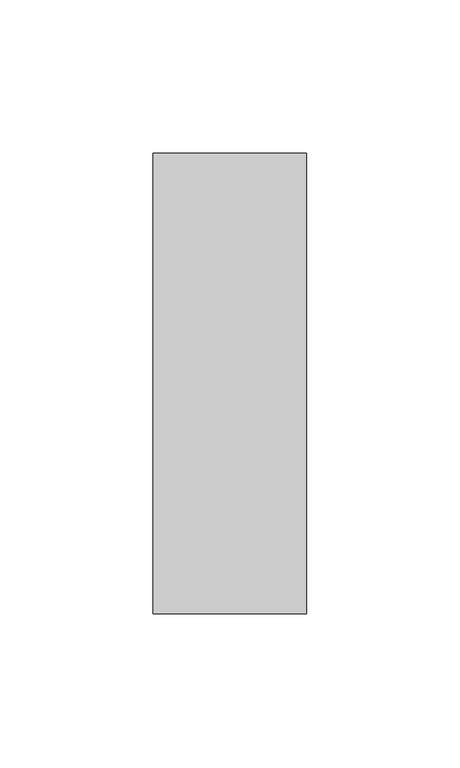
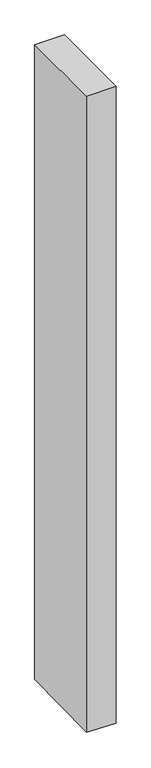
"""IFC4 building model written with IfcOpenShell, lengths in millimetres: member geometry, Прямоугольный импост : 50 x 150 мм."""

from ifc_helpers import new_model, si_unit, origin, place, context, project, spatial, faceted_brep, source, transform, mapped, element, save


def member_b7594aaf(model_context):
    return source(origin(), model_context, "Body", "Brep", [
        faceted_brep([(25.0, 75.0, 0.0), (-25.0, 75.0, 0.0), (-25.0, -75.0, 0.0), (25.0, -75.0, 0.0), (25.0, 75.0, -1125.1697515), (-25.0, 75.0, -1123.741645), (-25.0, -75.0, -1126.2570936), (25.0, -75.0, -1127.6852)], [[[0, 1, 2, 3]], [[1, 0, 4, 5]], [[2, 1, 5, 6]], [[3, 2, 6, 7]], [[0, 3, 7, 4]], [[4, 7, 6, 5]]]),
    ])


if __name__ == "__main__":
    model = new_model("IFC4")
    model_context = context("Model", 3, world=origin())
    ifc_project = project(units=[si_unit("LENGTHUNIT", "METRE", prefix="MILLI")], contexts=[model_context])
    site = spatial("IfcSite", under=ifc_project)
    building = spatial("IfcBuilding", under=site)
    placement = place(None, origin())
    member_shape = member_b7594aaf(model_context)
    element("IfcMember", 1, ObjectType="Прямоугольный импост : 50 x 150 мм", at=placement, inside=building, context=model_context, shape_type="MappedRepresentation", body=[
        mapped(member_shape, transform((0.0, 0.0, 0.0), x_axis=(1.0, 0.0, 0.0), y_axis=(0.0, 1.0, 0.0), z_axis=(0.0, 0.0, 1.0))),
    ])
    save(model, "model.ifc")
